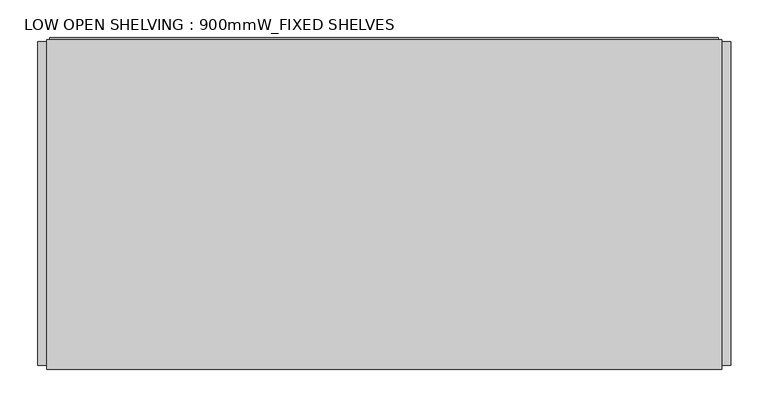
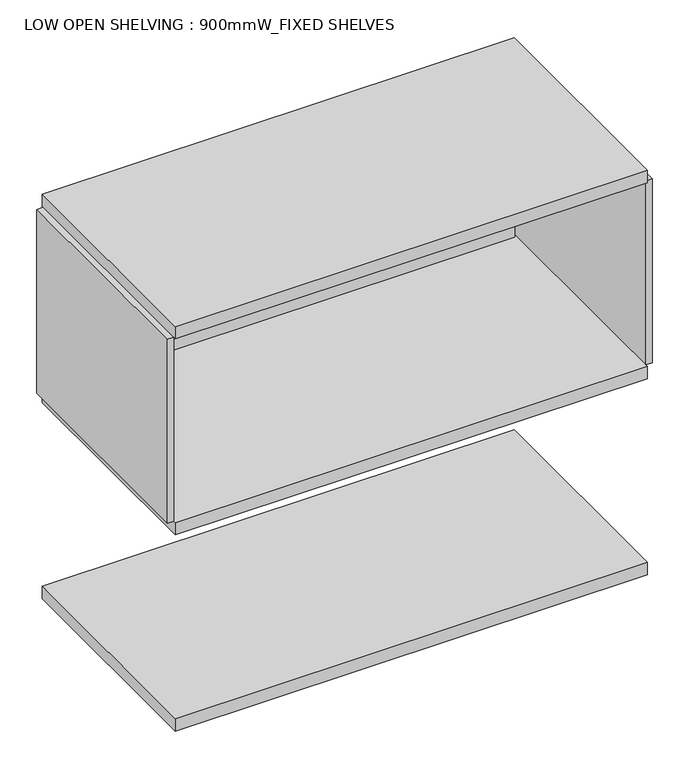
"""IFC4 building model written with IfcOpenShell, lengths in millimetres: furniture geometry, LOW OPEN SHELVING : 900mmW_FIXED SHELVES."""

from ifc_helpers import new_model, si_unit, frame, origin, place, context, project, spatial, polyline, outline, extrude, source, transform, mapped, element, save


def low_open_shelving_900mmw_fixed_shelves_d6d4c3ea(model_context):
    return source(origin(), model_context, "Body", "SweptSolid", [
        extrude(outline(polyline([(462.0, -214.7757931), (450.0, -214.7757931), (450.0, 217.1931665), (462.0, 217.1931665), (462.0, -214.7757931)])), frame((0.0, 0.0, 413.0), z_axis=(0.0, 0.0, 1.0), x_axis=(1.0, 0.0, 0.0)), (0.0, 0.0, 1.0), 370.0),
        extrude(outline(polyline([(-450.0, -214.7757931), (-462.0, -214.7757931), (-462.0, 217.1931665), (-450.0, 217.1931665), (-450.0, -214.7757931)])), frame((0.0, 0.0, 413.0), z_axis=(0.0, 0.0, 1.0), x_axis=(1.0, 0.0, 0.0)), (0.0, 0.0, 1.0), 370.0),
        extrude(outline(polyline([(450.0, 220.0), (450.0, -220.0), (-450.0, -220.0), (-450.0, 220.0), (450.0, 220.0)])), frame((0.0, 0.0, -7.0), z_axis=(0.0, 0.0, 1.0), x_axis=(1.0, 0.0, 0.0)), (0.0, 0.0, 1.0), 25.0),
        extrude(outline(polyline([(450.0, 220.0), (450.0, -220.0), (-450.0, -220.0), (-450.0, 220.0), (450.0, 220.0)])), frame((0.0, 0.0, 388.0), z_axis=(0.0, 0.0, 1.0), x_axis=(1.0, 0.0, 0.0)), (0.0, 0.0, 1.0), 25.0),
        extrude(outline(polyline([(450.0, 220.0), (450.0, -220.0), (-450.0, -220.0), (-450.0, 220.0), (450.0, 220.0)])), frame((0.0, 0.0, 783.0), z_axis=(0.0, 0.0, 1.0), x_axis=(1.0, 0.0, 0.0)), (0.0, 0.0, 1.0), 25.0),
        extrude(outline(polyline([(445.4939356, 222.7282814), (445.4939356, 210.7282814), (-445.4939356, 210.7282814), (-445.4939356, 222.7282814), (445.4939356, 222.7282814)])), frame((0.0, 0.0, 413.0), z_axis=(0.0, 0.0, 1.0), x_axis=(1.0, 0.0, 0.0)), (0.0, 0.0, 1.0), 370.0),
    ])


if __name__ == "__main__":
    model = new_model("IFC4")
    model_context = context("Model", 3, world=origin())
    ifc_project = project(units=[si_unit("LENGTHUNIT", "METRE", prefix="MILLI")], contexts=[model_context])
    site = spatial("IfcSite", under=ifc_project)
    building = spatial("IfcBuilding", under=site)
    placement = place(None, origin())
    low_open_shelving_900mmw_fixed_shelves_shape = low_open_shelving_900mmw_fixed_shelves_d6d4c3ea(model_context)
    element("IfcFurniture", 1, ObjectType="LOW OPEN SHELVING : 900mmW_FIXED SHELVES", at=placement, inside=building, context=model_context, shape_type="MappedRepresentation", body=[
        mapped(low_open_shelving_900mmw_fixed_shelves_shape, transform((0.0, 0.0, 0.0), x_axis=(1.0, 0.0, 0.0), y_axis=(0.0, 1.0, 0.0), z_axis=(0.0, 0.0, 1.0))),
    ])
    save(model, "model.ifc")
